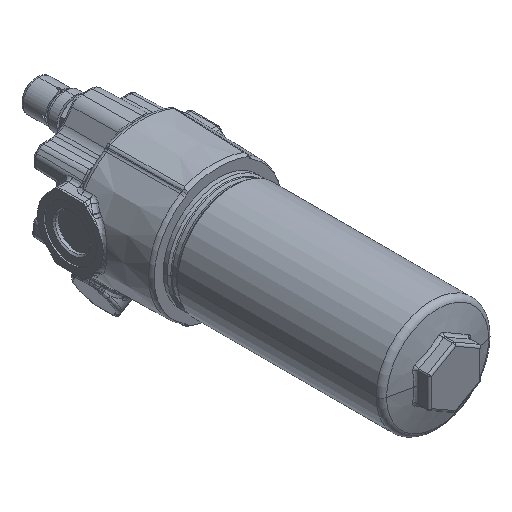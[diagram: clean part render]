
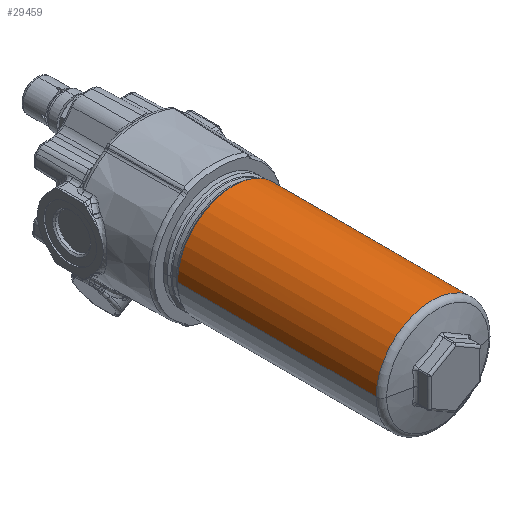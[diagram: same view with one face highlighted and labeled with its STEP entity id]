
A CAD part, isometric view. The second image highlights one B-rep face of the part: STEP entity #29459.
In plain terms, the highlighted cylindrical face has radius 38 mm (diameter 76 mm), a partial arc.
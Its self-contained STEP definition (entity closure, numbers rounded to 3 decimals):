
#8331=CARTESIAN_POINT('',(0.,-65.25,0.));
#8332=DIRECTION('',(0.,-1.,0.));
#8333=DIRECTION('',(1.,0.,0.));
#8334=AXIS2_PLACEMENT_3D('',#8331,#8332,#8333);
#8361=DIRECTION('',(0.,1.,0.));
#8362=VECTOR('',#8361,135.504);
#8363=CARTESIAN_POINT('',(-38.,-200.754,0.));
#8364=LINE('',#8363,#8362);
#8365=DIRECTION('',(0.,-1.,0.));
#8366=VECTOR('',#8365,38.754);
#8367=CARTESIAN_POINT('',(38.,-65.25,0.));
#8368=LINE('',#8367,#8366);
#8384=CARTESIAN_POINT('',(0.,-200.754,0.));
#8385=DIRECTION('',(0.,1.,0.));
#8386=DIRECTION('',(-1.,0.,0.));
#8387=AXIS2_PLACEMENT_3D('',#8384,#8385,#8386);
#8389=CARTESIAN_POINT('',(0.,-200.754,0.));
#8390=DIRECTION('',(0.,1.,0.));
#8391=DIRECTION('',(-1.,0.,0.004));
#8392=AXIS2_PLACEMENT_3D('',#8389,#8390,#8391);
#9001=CARTESIAN_POINT('',(0.,-200.754,0.));
#9002=DIRECTION('',(0.,1.,0.));
#9003=DIRECTION('',(1.,0.,0.));
#9004=AXIS2_PLACEMENT_3D('',#9001,#9002,#9003);
#9011=DIRECTION('',(0.,1.,0.));
#9012=VECTOR('',#9011,96.75);
#9013=CARTESIAN_POINT('',(38.,-200.754,
-0.154));
#9014=LINE('',#9013,#9012);
#9015=CARTESIAN_POINT('',(0.,-104.004,0.));
#9016=DIRECTION('',(0.,-1.,0.));
#9017=DIRECTION('',(1.,0.,-0.004));
#9018=AXIS2_PLACEMENT_3D('',#9015,#9016,#9017);
#10254=CARTESIAN_POINT('',(-38.,-65.25,0.));
#10255=VERTEX_POINT('',#10254);
#10256=CARTESIAN_POINT('',(38.,-65.25,0.));
#10257=VERTEX_POINT('',#10256);
#10260=CARTESIAN_POINT('',(-38.,-200.754,
0.154));
#10261=CARTESIAN_POINT('',(38.,-200.754,0.));
#10262=VERTEX_POINT('',#10260);
#10263=VERTEX_POINT('',#10261);
#10264=CARTESIAN_POINT('',(-38.,-200.754,0.));
#10265=VERTEX_POINT('',#10264);
#10266=CARTESIAN_POINT('',(38.,-104.004,0.));
#10267=VERTEX_POINT('',#10266);
#10268=CARTESIAN_POINT('',(38.,-104.004,
-0.154));
#10269=VERTEX_POINT('',#10268);
#10270=CARTESIAN_POINT('',(38.,-200.754,
-0.154));
#10271=VERTEX_POINT('',#10270);
#29437=CARTESIAN_POINT('',(0.,-11.3,0.));
#29438=DIRECTION('',(0.,-1.,0.));
#29439=DIRECTION('',(-1.,0.,0.));
#29440=AXIS2_PLACEMENT_3D('',#29437,#29438,#29439);
#29441=CYLINDRICAL_SURFACE('',#29440,38.);
#29443=ORIENTED_EDGE('',*,*,#29442,.F.);
#29445=ORIENTED_EDGE('',*,*,#29444,.F.);
#29447=ORIENTED_EDGE('',*,*,#29446,.T.);
#29448=ORIENTED_EDGE('',*,*,#29403,.F.);
#29450=ORIENTED_EDGE('',*,*,#29449,.T.);
#29452=ORIENTED_EDGE('',*,*,#29451,.F.);
#29454=ORIENTED_EDGE('',*,*,#29453,.F.);
#29456=ORIENTED_EDGE('',*,*,#29455,.F.);
#29457=EDGE_LOOP('',(#29443,#29445,#29447,#29448,#29450,#29452,#29454,#29456));
#29458=FACE_OUTER_BOUND('',#29457,.F.);
#8335=CIRCLE('',#8334,38.);
#8388=CIRCLE('',#8387,38.);
#8393=CIRCLE('',#8392,38.);
#9005=CIRCLE('',#9004,38.);
#9019=CIRCLE('',#9018,38.);
#29403=EDGE_CURVE('',#10257,#10255,#8335,.T.);
#29442=EDGE_CURVE('',#10262,#10263,#8393,.T.);
#29444=EDGE_CURVE('',#10265,#10262,#8388,.T.);
#29446=EDGE_CURVE('',#10265,#10255,#8364,.T.);
#29449=EDGE_CURVE('',#10257,#10267,#8368,.T.);
#29451=EDGE_CURVE('',#10269,#10267,#9019,.T.);
#29453=EDGE_CURVE('',#10271,#10269,#9014,.T.);
#29455=EDGE_CURVE('',#10263,#10271,#9005,.T.);
#29459=ADVANCED_FACE('',(#29458),#29441,.T.);
